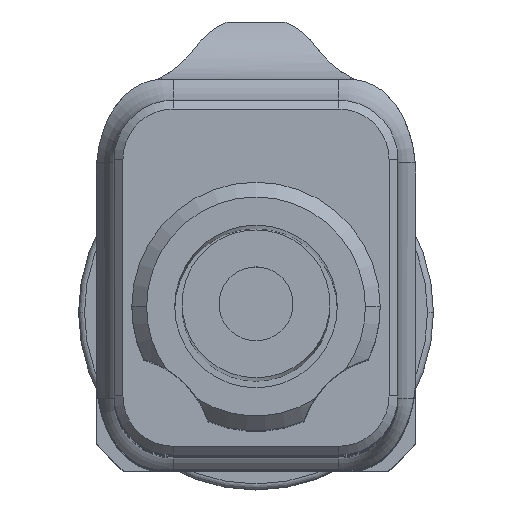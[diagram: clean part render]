
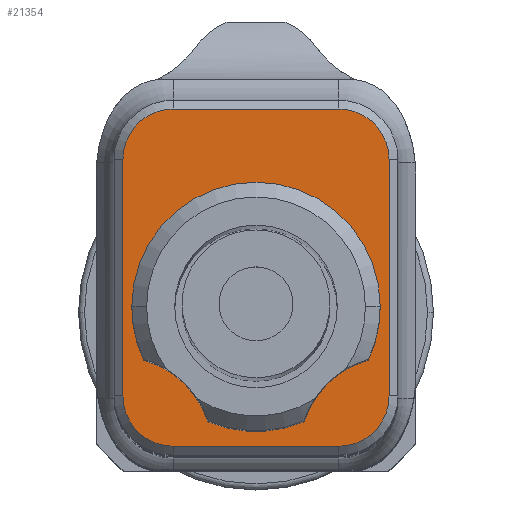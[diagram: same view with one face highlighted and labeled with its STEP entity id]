
A CAD part, top view. The second image highlights one B-rep face of the part: STEP entity #21354.
In plain terms, the highlighted planar face has unit normal (0, 0, 1).
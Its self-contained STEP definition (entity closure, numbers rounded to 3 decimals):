
#119 = DIRECTION ( 'NONE',  ( 1., 0., 0. ) ) ;
#143 = CARTESIAN_POINT ( 'NONE',  ( 4.667, -4.867, 72. ) ) ;
#450 = DIRECTION ( 'NONE',  ( 1., 0., 0. ) ) ;
#456 = CARTESIAN_POINT ( 'NONE',  ( 4.5, -3., 72. ) ) ;
#512 = VECTOR ( 'NONE', #450, 1000. ) ;
#621 = VERTEX_POINT ( 'NONE', #18781 ) ;
#680 = CIRCLE ( 'NONE', #9203, 4.2 ) ;
#835 = LINE ( 'NONE', #4325, #965 ) ;
#883 = VERTEX_POINT ( 'NONE', #1305 ) ;
#965 = VECTOR ( 'NONE', #11417, 1000. ) ;
#1047 = EDGE_CURVE ( 'NONE', #12196, #8219, #22956, .T. ) ;
#1305 = CARTESIAN_POINT ( 'NONE',  ( -2.8, 6.7, 72. ) ) ;
#1667 = EDGE_CURVE ( 'NONE', #17332, #14220, #21920, .T. ) ;
#1955 = CARTESIAN_POINT ( 'NONE',  ( 0., 0., 72. ) ) ;
#2012 = CIRCLE ( 'NONE', #15010, 4.2 ) ;
#2030 = CARTESIAN_POINT ( 'NONE',  ( -4.2, 0., 72. ) ) ;
#2069 = DIRECTION ( 'NONE',  ( 0., 0., 1. ) ) ;
#2166 = CARTESIAN_POINT ( 'NONE',  ( -2.8, 5., 72. ) ) ;
#2404 = DIRECTION ( 'NONE',  ( 1., 0., 0. ) ) ;
#2463 = DIRECTION ( 'NONE',  ( 0., -1., 0. ) ) ;
#2689 = CARTESIAN_POINT ( 'NONE',  ( -4.5, -3.7, 72. ) ) ;
#2702 = DIRECTION ( 'NONE',  ( 1., 0., 0. ) ) ;
#3610 = AXIS2_PLACEMENT_3D ( 'NONE', #21891, #13282, #2702 ) ;
#3938 = DIRECTION ( 'NONE',  ( 0., 0., 1. ) ) ;
#4071 = DIRECTION ( 'NONE',  ( 0., 0., 1. ) ) ;
#4325 = CARTESIAN_POINT ( 'NONE',  ( 4.5, -3.7, 72. ) ) ;
#4749 = AXIS2_PLACEMENT_3D ( 'NONE', #8023, #9552, #20019 ) ;
#4935 = VECTOR ( 'NONE', #2463, 1000. ) ;
#5018 = ORIENTED_EDGE ( 'NONE', *, *, #22227, .F. ) ;
#5425 = DIRECTION ( 'NONE',  ( 1., 0., 0. ) ) ;
#5498 = DIRECTION ( 'NONE',  ( 1., 0., 0. ) ) ;
#5561 = DIRECTION ( 'NONE',  ( 1., 0., 0. ) ) ;
#5855 = CIRCLE ( 'NONE', #8825, 3.2 ) ;
#5938 = DIRECTION ( 'NONE',  ( 1., 0., 0. ) ) ;
#6035 = CARTESIAN_POINT ( 'NONE',  ( -1.625, -3.873, 72. ) ) ;
#6071 = CIRCLE ( 'NONE', #9042, 1.7 ) ;
#6076 = FACE_OUTER_BOUND ( 'NONE', #7688, .T. ) ;
#7141 = ORIENTED_EDGE ( 'NONE', *, *, #9184, .T. ) ;
#7346 = CARTESIAN_POINT ( 'NONE',  ( -4.5, 5., 72. ) ) ;
#7455 = ORIENTED_EDGE ( 'NONE', *, *, #10172, .F. ) ;
#7606 = VERTEX_POINT ( 'NONE', #18266 ) ;
#7613 = EDGE_CURVE ( 'NONE', #621, #13444, #6071, .T. ) ;
#7688 = EDGE_LOOP ( 'NONE', ( #20614, #13153, #19167, #18552, #21466, #12579, #12819, #10028 ) ) ;
#7879 = CARTESIAN_POINT ( 'NONE',  ( 4.5, 5., 72. ) ) ;
#8023 = CARTESIAN_POINT ( 'NONE',  ( 0., 0., 72. ) ) ;
#8153 = ORIENTED_EDGE ( 'NONE', *, *, #1047, .F. ) ;
#8219 = VERTEX_POINT ( 'NONE', #18349 ) ;
#8233 = CIRCLE ( 'NONE', #22354, 1.7 ) ;
#8565 = DIRECTION ( 'NONE',  ( 0., 0., 1. ) ) ;
#8663 = CARTESIAN_POINT ( 'NONE',  ( -3.5, 6.7, 72. ) ) ;
#8805 = DIRECTION ( 'NONE',  ( 1., 0., 0. ) ) ;
#8825 = AXIS2_PLACEMENT_3D ( 'NONE', #143, #17825, #5498 ) ;
#8847 = CARTESIAN_POINT ( 'NONE',  ( 0., 0., 72. ) ) ;
#8945 = DIRECTION ( 'NONE',  ( 1., 0., 0. ) ) ;
#9042 = AXIS2_PLACEMENT_3D ( 'NONE', #19891, #4071, #5938 ) ;
#9184 = EDGE_CURVE ( 'NONE', #12196, #10793, #15298, .T. ) ;
#9203 = AXIS2_PLACEMENT_3D ( 'NONE', #8847, #17797, #119 ) ;
#9298 = EDGE_CURVE ( 'NONE', #883, #12606, #8233, .T. ) ;
#9552 = DIRECTION ( 'NONE',  ( 0., 0., 1. ) ) ;
#9758 = VERTEX_POINT ( 'NONE', #11649 ) ;
#10028 = ORIENTED_EDGE ( 'NONE', *, *, #11234, .T. ) ;
#10172 = EDGE_CURVE ( 'NONE', #22767, #17332, #2012, .T. ) ;
#10465 = EDGE_CURVE ( 'NONE', #9758, #883, #13664, .T. ) ;
#10793 = VERTEX_POINT ( 'NONE', #12139 ) ;
#11116 = DIRECTION ( 'NONE',  ( 0., 0., 1. ) ) ;
#11143 = LINE ( 'NONE', #16263, #512 ) ;
#11145 = ORIENTED_EDGE ( 'NONE', *, *, #1667, .F. ) ;
#11187 = VERTEX_POINT ( 'NONE', #7879 ) ;
#11217 = AXIS2_PLACEMENT_3D ( 'NONE', #17297, #8565, #8805 ) ;
#11234 = EDGE_CURVE ( 'NONE', #13062, #621, #11143, .T. ) ;
#11406 = LINE ( 'NONE', #2689, #4935 ) ;
#11417 = DIRECTION ( 'NONE',  ( 0., 1., 0. ) ) ;
#11649 = CARTESIAN_POINT ( 'NONE',  ( 2.8, 6.7, 72. ) ) ;
#12139 = CARTESIAN_POINT ( 'NONE',  ( -3.801, -1.786, 72. ) ) ;
#12196 = VERTEX_POINT ( 'NONE', #6035 ) ;
#12579 = ORIENTED_EDGE ( 'NONE', *, *, #13131, .T. ) ;
#12606 = VERTEX_POINT ( 'NONE', #7346 ) ;
#12819 = ORIENTED_EDGE ( 'NONE', *, *, #13079, .T. ) ;
#13062 = VERTEX_POINT ( 'NONE', #13266 ) ;
#13079 = EDGE_CURVE ( 'NONE', #7606, #13062, #14602, .T. ) ;
#13131 = EDGE_CURVE ( 'NONE', #12606, #7606, #11406, .T. ) ;
#13153 = ORIENTED_EDGE ( 'NONE', *, *, #15546, .T. ) ;
#13266 = CARTESIAN_POINT ( 'NONE',  ( -2.8, -4.7, 72. ) ) ;
#13282 = DIRECTION ( 'NONE',  ( 0., 0., 1. ) ) ;
#13444 = VERTEX_POINT ( 'NONE', #456 ) ;
#13492 = EDGE_CURVE ( 'NONE', #11187, #9758, #20492, .T. ) ;
#13664 = LINE ( 'NONE', #8663, #20604 ) ;
#13852 = AXIS2_PLACEMENT_3D ( 'NONE', #16875, #22107, #15234 ) ;
#14220 = VERTEX_POINT ( 'NONE', #2030 ) ;
#14602 = CIRCLE ( 'NONE', #13852, 1.7 ) ;
#14612 = DIRECTION ( 'NONE',  ( 0., 0., 1. ) ) ;
#14802 = FACE_BOUND ( 'NONE', #16920, .T. ) ;
#15010 = AXIS2_PLACEMENT_3D ( 'NONE', #18335, #14612, #2404 ) ;
#15234 = DIRECTION ( 'NONE',  ( 1., 0., 0. ) ) ;
#15298 = CIRCLE ( 'NONE', #11217, 3.2 ) ;
#15546 = EDGE_CURVE ( 'NONE', #13444, #11187, #835, .T. ) ;
#16154 = CARTESIAN_POINT ( 'NONE',  ( 2.8, 5., 72. ) ) ;
#16263 = CARTESIAN_POINT ( 'NONE',  ( -3.5, -4.7, 72. ) ) ;
#16469 = ORIENTED_EDGE ( 'NONE', *, *, #18178, .F. ) ;
#16581 = CARTESIAN_POINT ( 'NONE',  ( 3.801, -1.786, 72. ) ) ;
#16875 = CARTESIAN_POINT ( 'NONE',  ( -2.8, -3., 72. ) ) ;
#16920 = EDGE_LOOP ( 'NONE', ( #7455, #5018, #8153, #7141, #16469, #11145 ) ) ;
#17297 = CARTESIAN_POINT ( 'NONE',  ( -4.667, -4.867, 72. ) ) ;
#17332 = VERTEX_POINT ( 'NONE', #19429 ) ;
#17449 = AXIS2_PLACEMENT_3D ( 'NONE', #1955, #2069, #5561 ) ;
#17797 = DIRECTION ( 'NONE',  ( 0., 0., 1. ) ) ;
#17825 = DIRECTION ( 'NONE',  ( 0., 0., -1. ) ) ;
#18178 = EDGE_CURVE ( 'NONE', #14220, #10793, #680, .T. ) ;
#18266 = CARTESIAN_POINT ( 'NONE',  ( -4.5, -3., 72. ) ) ;
#18335 = CARTESIAN_POINT ( 'NONE',  ( 0., 0., 72. ) ) ;
#18349 = CARTESIAN_POINT ( 'NONE',  ( 1.625, -3.873, 72. ) ) ;
#18552 = ORIENTED_EDGE ( 'NONE', *, *, #10465, .T. ) ;
#18656 = AXIS2_PLACEMENT_3D ( 'NONE', #16154, #3938, #8945 ) ;
#18781 = CARTESIAN_POINT ( 'NONE',  ( 2.8, -4.7, 72. ) ) ;
#19167 = ORIENTED_EDGE ( 'NONE', *, *, #13492, .T. ) ;
#19429 = CARTESIAN_POINT ( 'NONE',  ( 4.2, 0., 72. ) ) ;
#19891 = CARTESIAN_POINT ( 'NONE',  ( 2.8, -3., 72. ) ) ;
#20019 = DIRECTION ( 'NONE',  ( 1., 0., 0. ) ) ;
#20265 = PLANE ( 'NONE',  #3610 ) ;
#20492 = CIRCLE ( 'NONE', #18656, 1.7 ) ;
#20604 = VECTOR ( 'NONE', #21113, 1000. ) ;
#20614 = ORIENTED_EDGE ( 'NONE', *, *, #7613, .T. ) ;
#21113 = DIRECTION ( 'NONE',  ( -1., 0., 0. ) ) ;
#21354 = ADVANCED_FACE ( 'NONE', ( #14802, #6076 ), #20265, .T. ) ;
#21466 = ORIENTED_EDGE ( 'NONE', *, *, #9298, .T. ) ;
#21891 = CARTESIAN_POINT ( 'NONE',  ( -3.5, -3.7, 72. ) ) ;
#21920 = CIRCLE ( 'NONE', #17449, 4.2 ) ;
#22107 = DIRECTION ( 'NONE',  ( 0., 0., 1. ) ) ;
#22227 = EDGE_CURVE ( 'NONE', #8219, #22767, #5855, .T. ) ;
#22354 = AXIS2_PLACEMENT_3D ( 'NONE', #2166, #11116, #5425 ) ;
#22767 = VERTEX_POINT ( 'NONE', #16581 ) ;
#22956 = CIRCLE ( 'NONE', #4749, 4.2 ) ;
